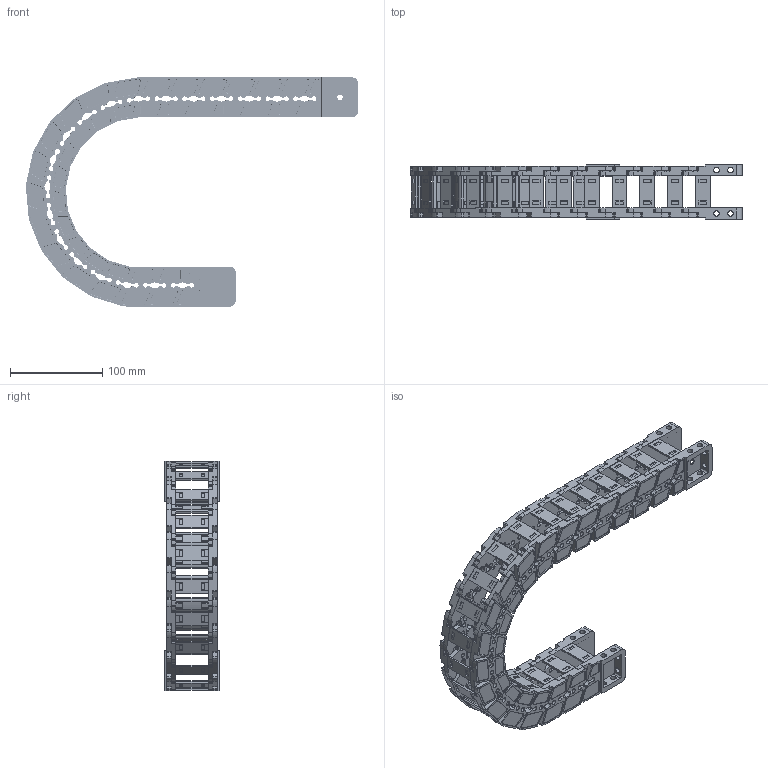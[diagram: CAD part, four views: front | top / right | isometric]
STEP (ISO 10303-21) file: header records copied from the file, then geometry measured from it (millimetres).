
FILE_DESCRIPTION((''),'2;1');
FILE_NAME('JY-35X35-R100_ASM','2025-01-05T19:20:20',('admin'),(''),'CREO PARAMETRIC BY PTC INC, 2021023','CREO PARAMETRIC BY PTC INC, 2021023','');
FILE_SCHEMA(('CONFIG_CONTROL_DESIGN'));
Length unit declared in the file: millimetre
Products named in the file (11): 35XL-L; YP; 35XL-R; ASM0001_ASM; 35-LTT-A-L; 35-LTT-A-R; 35XL-LTT-A_ASM; 35-LTT-B-L; 35-LTT-B-R; 35XL-LTT-B_ASM; JY-35X35-R100_ASM
Assembly tree (32 placements, depth 3):
  JY-35X35-R100_ASM
    ASM0001_ASM  x18
      35XL-L
      YP
      35XL-R
    35XL-LTT-A_ASM
      35-LTT-A-L
      YP  x2
      35-LTT-A-R
    35XL-LTT-B_ASM
      35-LTT-B-L
      YP  x2
      35-LTT-B-R
Bounding box: 359.13 x 59 x 247.81 mm (x, y, z)
Volume: 500951.4 mm3; surface area: 291825.1 mm2
Topology: 80 solids, 80 shells, 6520 faces, 19542 edges, 13190 vertices
Faces by surface type: plane 3688, cylinder 2148, cone 418, extrusion 152, bspline 114
Entity records: 27866 total; most frequent: CARTESIAN_POINT 6165, ORIENTED_EDGE 4640, DIRECTION 4359, EDGE_CURVE 2320, VERTEX_POINT 1568, AXIS2_PLACEMENT_3D 1471, VECTOR 1417, LINE 1401
